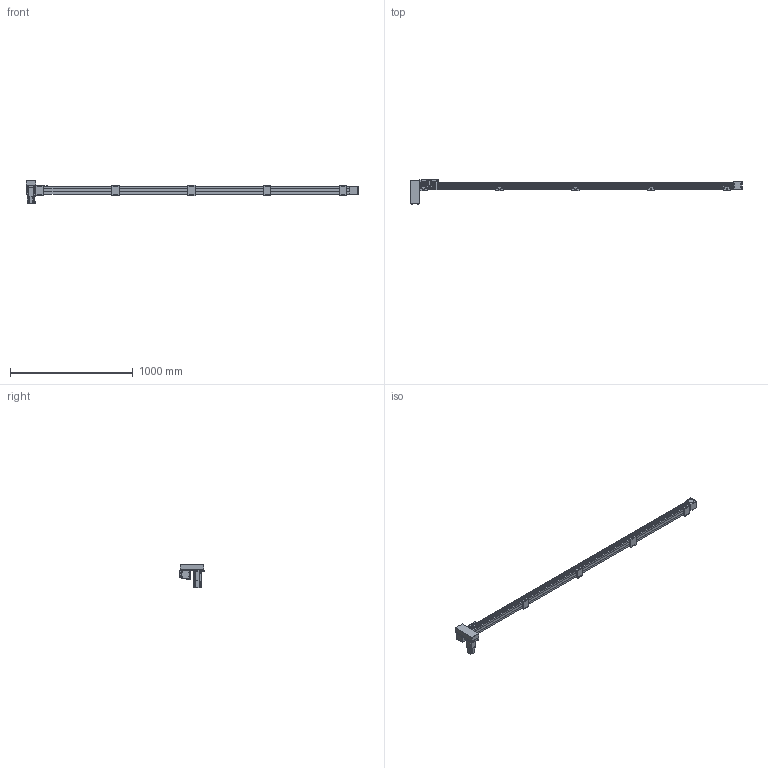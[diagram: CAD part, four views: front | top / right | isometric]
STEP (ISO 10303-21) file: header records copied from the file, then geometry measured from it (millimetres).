
FILE_DESCRIPTION(/* description */ ('STEP AP214'),/* implementation_level */ '2;1');
FILE_NAME(/* name */ 'SK60-P13-S2400-RD-T40-C1-N(0)',/* time_stamp */ '2023-04-06T04:56:57+02:00',/* author */ ('License CC BY-ND 4.0'),/* organization */ ('CADENAS'),/* preprocessor_version */ 'ST-DEVELOPER v19.3',/* originating_system */ 'PARTsolutions',/* authorisation */ ' ');
FILE_SCHEMA (('AUTOMOTIVE_DESIGN {1 0 10303 214 3 1 1}'));
Length unit declared in the file: millimetre
Products named in the file (10): SK60-P13-S2400-RD-T40-C1-N(0); PSC140-sensor; SK60-S450_seat; SK60-S450-BL-C1_slider; SK60_body3; SK60_body6; SK60-BL_body2; T40-p1; SK60-RD_fb; SK60-S2400-RD-C1_body
Assembly tree (19 placements, depth 2):
  SK60-P13-S2400-RD-T40-C1-N(0)
    PSC140-sensor  x3
    SK60-S450_seat  x5
    SK60-S450-BL-C1_slider
    SK60_body3  x3
    SK60_body6  x2
    SK60-BL_body2  x2
    T40-p1
    SK60-RD_fb
    SK60-S2400-RD-C1_body
Bounding box: 2705.5 x 199 x 189.7 mm (x, y, z)
Volume: 10366280.2 mm3; surface area: 1222768.3 mm2
Topology: 19 solids, 19 shells, 942 faces, 2342 edges, 1541 vertices
Faces by surface type: plane 596, cylinder 310, cone 34, torus 2
Full cylindrical faces by diameter (mm): 2.8 x3, 3.3 x4, 4 x2, 4.5 x30, 4.6 x3, 4.917 x28, 5 x6, 5.478 x4, 5.5 x31, 6.5 x10, 7 x2, 8 x4, 8.5 x4, 9.988 x4, 10 x20, 14 x1, 47 x3, 50 x2
Entity records: 18679 total; most frequent: DIRECTION 3190, CARTESIAN_POINT 3153, ORIENTED_EDGE 2940, EDGE_CURVE 1470, AXIS2_PLACEMENT_3D 1071, LINE 1048, VECTOR 1048, VERTEX_POINT 1034
